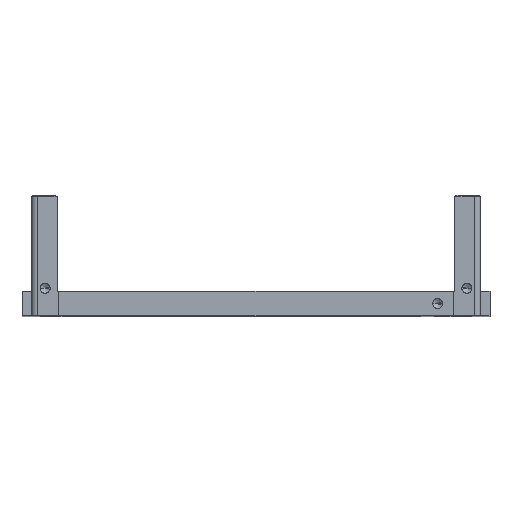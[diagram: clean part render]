
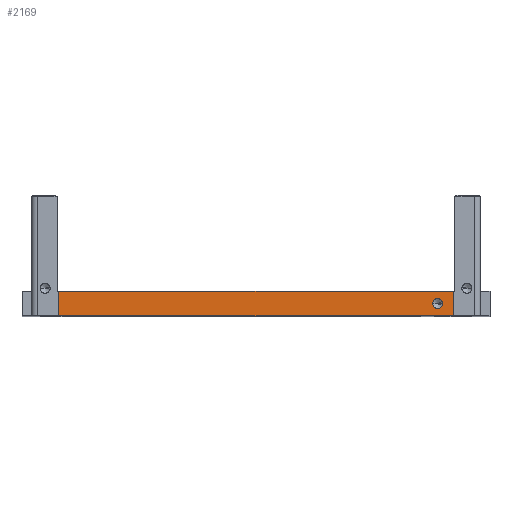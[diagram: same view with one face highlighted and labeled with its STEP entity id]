
A CAD part, top view. The second image highlights one B-rep face of the part: STEP entity #2169.
In plain terms, the highlighted planar face has unit normal (0, 0, 1).
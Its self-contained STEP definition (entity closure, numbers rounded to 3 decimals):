
#257 = EDGE_LOOP ( 'NONE', ( #4506, #889 ) ) ;
#410 = AXIS2_PLACEMENT_3D ( 'NONE', #5654, #2427, #4857 ) ;
#599 = DIRECTION ( 'NONE',  ( -1., 0., 0. ) ) ;
#752 = CARTESIAN_POINT ( 'NONE',  ( 29.5, -22.6, 38. ) ) ;
#772 = VECTOR ( 'NONE', #2639, 1000. ) ;
#773 = VECTOR ( 'NONE', #599, 1000. ) ;
#889 = ORIENTED_EDGE ( 'NONE', *, *, #3786, .F. ) ;
#1046 = DIRECTION ( 'NONE',  ( 0., 0., 1. ) ) ;
#1186 = VECTOR ( 'NONE', #3054, 1000. ) ;
#1291 = VERTEX_POINT ( 'NONE', #1938 ) ;
#1382 = DIRECTION ( 'NONE',  ( 0., 0., 1. ) ) ;
#1871 = EDGE_CURVE ( 'NONE', #3994, #3488, #2673, .T. ) ;
#1938 = CARTESIAN_POINT ( 'NONE',  ( 32., -20.6, 38. ) ) ;
#2047 = VERTEX_POINT ( 'NONE', #6062 ) ;
#2153 = DIRECTION ( 'NONE',  ( 1., 0., 0. ) ) ;
#2169 = ADVANCED_FACE ( 'NONE', ( #4064, #6500 ), #4543, .T. ) ;
#2427 = DIRECTION ( 'NONE',  ( 0., 0., 1. ) ) ;
#2462 = AXIS2_PLACEMENT_3D ( 'NONE', #752, #1382, #5614 ) ;
#2615 = CARTESIAN_POINT ( 'NONE',  ( 32., -6.2, 38. ) ) ;
#2639 = DIRECTION ( 'NONE',  ( 0., 1., 0. ) ) ;
#2673 = LINE ( 'NONE', #5146, #772 ) ;
#2936 = LINE ( 'NONE', #4176, #773 ) ;
#3054 = DIRECTION ( 'NONE',  ( 0., 1., 0. ) ) ;
#3211 = LINE ( 'NONE', #2615, #1186 ) ;
#3488 = VERTEX_POINT ( 'NONE', #6966 ) ;
#3559 = ORIENTED_EDGE ( 'NONE', *, *, #4081, .F. ) ;
#3623 = ORIENTED_EDGE ( 'NONE', *, *, #6974, .F. ) ;
#3786 = EDGE_CURVE ( 'NONE', #6446, #7325, #4471, .T. ) ;
#3965 = CARTESIAN_POINT ( 'NONE',  ( 30.3, -22.6, 38. ) ) ;
#3994 = VERTEX_POINT ( 'NONE', #7836 ) ;
#4064 = FACE_BOUND ( 'NONE', #257, .T. ) ;
#4081 = EDGE_CURVE ( 'NONE', #3488, #1291, #6332, .T. ) ;
#4176 = CARTESIAN_POINT ( 'NONE',  ( 0., -24.6, 38. ) ) ;
#4297 = ORIENTED_EDGE ( 'NONE', *, *, #1871, .F. ) ;
#4326 = EDGE_LOOP ( 'NONE', ( #5732, #3559, #4297, #3623 ) ) ;
#4471 = CIRCLE ( 'NONE', #410, 0.8 ) ;
#4506 = ORIENTED_EDGE ( 'NONE', *, *, #6033, .F. ) ;
#4543 = PLANE ( 'NONE',  #6278 ) ;
#4857 = DIRECTION ( 'NONE',  ( 1., 0., 0. ) ) ;
#4870 = VECTOR ( 'NONE', #5733, 1000. ) ;
#5146 = CARTESIAN_POINT ( 'NONE',  ( -32., -6.2, 38. ) ) ;
#5614 = DIRECTION ( 'NONE',  ( 1., 0., 0. ) ) ;
#5654 = CARTESIAN_POINT ( 'NONE',  ( 29.5, -22.6, 38. ) ) ;
#5732 = ORIENTED_EDGE ( 'NONE', *, *, #6098, .T. ) ;
#5733 = DIRECTION ( 'NONE',  ( 1., 0., 0. ) ) ;
#6033 = EDGE_CURVE ( 'NONE', #7325, #6446, #6526, .T. ) ;
#6062 = CARTESIAN_POINT ( 'NONE',  ( 32., -24.6, 38. ) ) ;
#6098 = EDGE_CURVE ( 'NONE', #2047, #1291, #3211, .T. ) ;
#6278 = AXIS2_PLACEMENT_3D ( 'NONE', #7732, #1046, #2153 ) ;
#6332 = LINE ( 'NONE', #6927, #4870 ) ;
#6446 = VERTEX_POINT ( 'NONE', #7614 ) ;
#6500 = FACE_OUTER_BOUND ( 'NONE', #4326, .T. ) ;
#6526 = CIRCLE ( 'NONE', #2462, 0.8 ) ;
#6927 = CARTESIAN_POINT ( 'NONE',  ( -32., -20.6, 38. ) ) ;
#6966 = CARTESIAN_POINT ( 'NONE',  ( -32., -20.6, 38. ) ) ;
#6974 = EDGE_CURVE ( 'NONE', #2047, #3994, #2936, .T. ) ;
#7325 = VERTEX_POINT ( 'NONE', #3965 ) ;
#7614 = CARTESIAN_POINT ( 'NONE',  ( 28.7, -22.6, 38. ) ) ;
#7732 = CARTESIAN_POINT ( 'NONE',  ( 0., -6.2, 38. ) ) ;
#7836 = CARTESIAN_POINT ( 'NONE',  ( -32., -24.6, 38. ) ) ;
